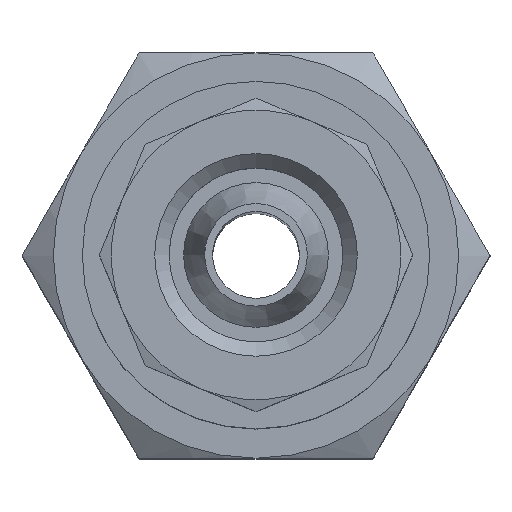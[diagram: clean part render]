
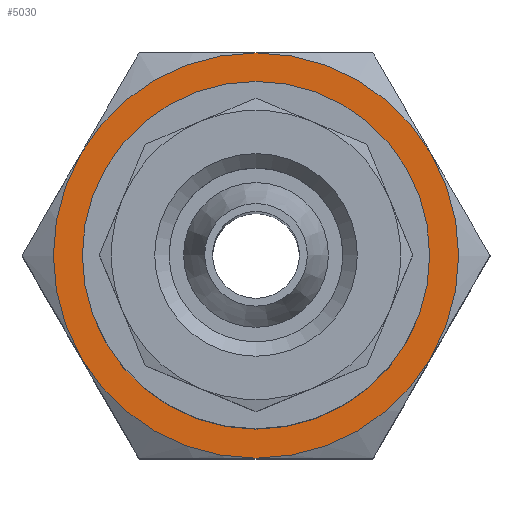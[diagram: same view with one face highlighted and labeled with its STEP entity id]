
A CAD part, top view. The second image highlights one B-rep face of the part: STEP entity #5030.
In plain terms, the highlighted planar face has unit normal (0, 0, 1).
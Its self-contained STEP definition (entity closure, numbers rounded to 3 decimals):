
#2668=ORIENTED_EDGE('',*,*,#3163,.T.);
#2669=ORIENTED_EDGE('',*,*,#3137,.T.);
#2670=ORIENTED_EDGE('',*,*,#3164,.T.);
#2671=ORIENTED_EDGE('',*,*,#3148,.T.);
#2672=ORIENTED_EDGE('',*,*,#3154,.T.);
#2673=ORIENTED_EDGE('',*,*,#3160,.T.);
#2674=ORIENTED_EDGE('',*,*,#3165,.T.);
#2845=CIRCLE('',#4791,7.);
#2846=CIRCLE('',#4804,7.);
#2847=CIRCLE('',#4811,7.);
#2848=CIRCLE('',#4818,7.);
#2849=CIRCLE('',#4823,7.);
#2850=CIRCLE('',#4825,7.);
#2851=CIRCLE('',#4826,5.2);
#2961=VERTEX_POINT('',#4441);
#2964=VERTEX_POINT('',#4450);
#2968=VERTEX_POINT('',#4464);
#2970=VERTEX_POINT('',#4471);
#2973=VERTEX_POINT('',#4482);
#2976=VERTEX_POINT('',#4493);
#2977=VERTEX_POINT('',#4503);
#3137=EDGE_CURVE('',#2961,#2964,#2845,.T.);
#3148=EDGE_CURVE('',#2968,#2970,#2846,.T.);
#3154=EDGE_CURVE('',#2970,#2973,#2847,.T.);
#3160=EDGE_CURVE('',#2973,#2976,#2848,.T.);
#3163=EDGE_CURVE('',#2976,#2961,#2849,.T.);
#3164=EDGE_CURVE('',#2964,#2968,#2850,.T.);
#3165=EDGE_CURVE('',#2977,#2977,#2851,.T.);
#3333=EDGE_LOOP('',(#2668,#2669,#2670,#2671,#2672,#2673));
#3334=EDGE_LOOP('',(#2674));
#3493=FACE_BOUND('',#3333,.T.);
#3494=FACE_BOUND('',#3334,.T.);
#3914=DIRECTION('',(0.,0.,1.));
#3915=DIRECTION('',(-3.5,6.062,0.));
#3942=DIRECTION('',(0.,0.,1.));
#3943=DIRECTION('',(-3.5,6.062,0.));
#3957=DIRECTION('',(0.,0.,1.));
#3958=DIRECTION('',(-3.5,6.062,0.));
#3972=DIRECTION('',(0.,0.,1.));
#3973=DIRECTION('',(-3.5,6.062,0.));
#3982=DIRECTION('',(0.,0.,1.));
#3983=DIRECTION('',(-3.5,6.062,0.));
#3984=DIRECTION('',(0.,0.,1.));
#3985=DIRECTION('',(0.,-1.,0.));
#3986=DIRECTION('',(0.,0.,1.));
#3987=DIRECTION('',(-3.5,6.062,0.));
#3988=DIRECTION('',(0.,0.,-1.));
#3989=DIRECTION('',(-2.6,4.503,0.));
#4441=CARTESIAN_POINT('',(-7.,0.,4.5));
#4450=CARTESIAN_POINT('',(-3.5,-6.062,4.5));
#4452=CARTESIAN_POINT('',(0.,0.,4.5));
#4464=CARTESIAN_POINT('',(3.5,-6.062,4.5));
#4471=CARTESIAN_POINT('',(7.,0.,4.5));
#4473=CARTESIAN_POINT('',(0.,0.,4.5));
#4482=CARTESIAN_POINT('',(3.5,6.062,4.5));
#4484=CARTESIAN_POINT('',(0.,0.,4.5));
#4493=CARTESIAN_POINT('',(-3.5,6.062,4.5));
#4495=CARTESIAN_POINT('',(0.,0.,4.5));
#4500=CARTESIAN_POINT('',(0.,0.,4.5));
#4501=CARTESIAN_POINT('',(-3.5,-6.062,4.5));
#4502=CARTESIAN_POINT('',(0.,0.,4.5));
#4503=CARTESIAN_POINT('',(-2.6,4.503,4.5));
#4504=CARTESIAN_POINT('',(0.,0.,4.5));
#4791=AXIS2_PLACEMENT_3D('',#4452,#3914,#3915);
#4804=AXIS2_PLACEMENT_3D('',#4473,#3942,#3943);
#4811=AXIS2_PLACEMENT_3D('',#4484,#3957,#3958);
#4818=AXIS2_PLACEMENT_3D('',#4495,#3972,#3973);
#4823=AXIS2_PLACEMENT_3D('',#4500,#3982,#3983);
#4824=AXIS2_PLACEMENT_3D('',#4501,#3984,#3985);
#4825=AXIS2_PLACEMENT_3D('',#4502,#3986,#3987);
#4826=AXIS2_PLACEMENT_3D('',#4504,#3988,#3989);
#4939=PLANE('',#4824);
#5030=ADVANCED_FACE('',(#3493,#3494),#4939,.T.);
